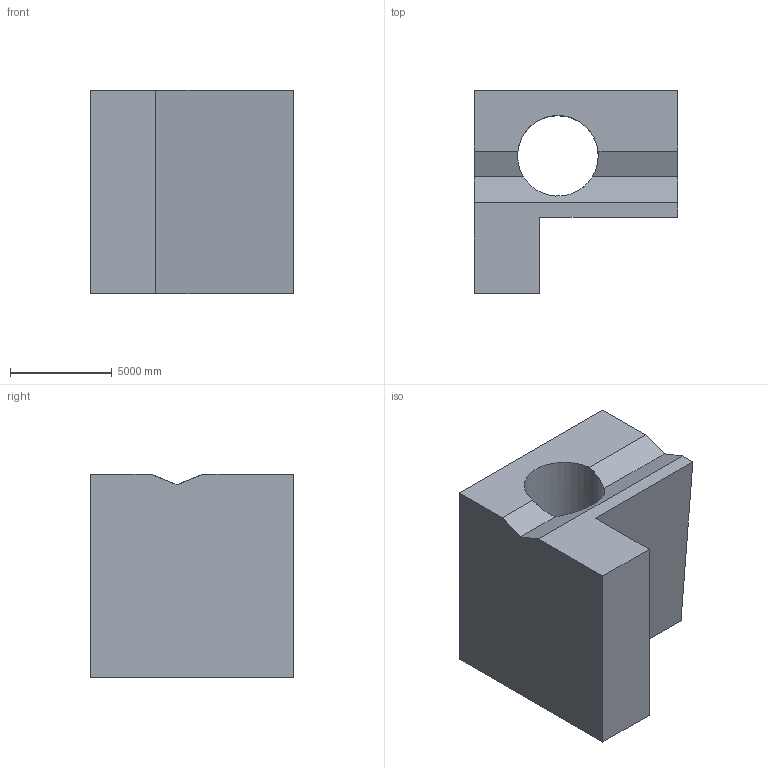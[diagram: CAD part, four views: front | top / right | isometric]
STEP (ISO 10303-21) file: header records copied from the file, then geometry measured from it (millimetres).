
FILE_DESCRIPTION (( 'STEP AP203' ), '1' );
FILE_NAME ('273.STEP', '2022-07-28T14:10:23', ( 'user' ), ( '' ), 'SwSTEP 2.0', 'SolidWorks 2021', '' );
FILE_SCHEMA (( 'CONFIG_CONTROL_DESIGN' ));
Length unit declared in the file: centimetre
Products named in the file (1): 273
Bounding box: 10000 x 10000 x 10000 mm (x, y, z)
Volume: 590056791353.2 mm3; surface area: 642205885 mm2
Topology: 1 solids, 1 shells, 14 faces, 39 edges, 26 vertices
Faces by surface type: plane 12, cylinder 2
Entity records: 527 total; most frequent: CARTESIAN_POINT 95, ORIENTED_EDGE 78, DIRECTION 67, EDGE_CURVE 39, VECTOR 31, LINE 31, VERTEX_POINT 26, AXIS2_PLACEMENT_3D 18
